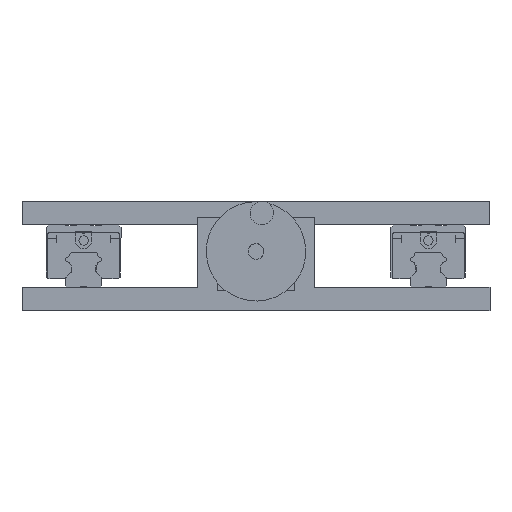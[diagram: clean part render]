
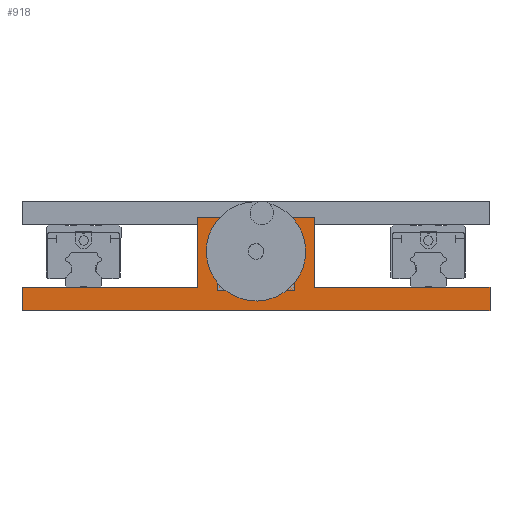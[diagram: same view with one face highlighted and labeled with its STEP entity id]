
A CAD part, front view. The second image highlights one B-rep face of the part: STEP entity #918.
In plain terms, the highlighted planar face has unit normal (0, -1, 0).
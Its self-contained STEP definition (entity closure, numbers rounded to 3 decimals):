
#236 = DIRECTION ( 'NONE',  ( 0., 0., -1. ) ) ;
#578 = CARTESIAN_POINT ( 'NONE',  ( 150., -866.5, 15. ) ) ;
#820 = FACE_OUTER_BOUND ( 'NONE', #61921, .T. ) ;
#918 = ADVANCED_FACE ( 'NONE', ( #73747, #820 ), #36526, .F. ) ;
#1260 = CARTESIAN_POINT ( 'NONE',  ( -150., -866.5, 0. ) ) ;
#1942 = DIRECTION ( 'NONE',  ( 0., 0., 1. ) ) ;
#2105 = DIRECTION ( 'NONE',  ( 0., 0., 1. ) ) ;
#3337 = EDGE_CURVE ( 'NONE', #21797, #23533, #60523, .T. ) ;
#3824 = ORIENTED_EDGE ( 'NONE', *, *, #19549, .F. ) ;
#4621 = EDGE_CURVE ( 'NONE', #69899, #23819, #46648, .T. ) ;
#6021 = CARTESIAN_POINT ( 'NONE',  ( 37.5, -866.5, 60. ) ) ;
#7428 = CARTESIAN_POINT ( 'NONE',  ( -150., -866.5, 15. ) ) ;
#9494 = EDGE_CURVE ( 'NONE', #52424, #62600, #56745, .T. ) ;
#9623 = AXIS2_PLACEMENT_3D ( 'NONE', #35466, #46844, #2105 ) ;
#10319 = DIRECTION ( 'NONE',  ( 0., 0., -1. ) ) ;
#11988 = DIRECTION ( 'NONE',  ( 1., 0., 0. ) ) ;
#12855 = DIRECTION ( 'NONE',  ( 0., 0., -1. ) ) ;
#12970 = CARTESIAN_POINT ( 'NONE',  ( -37.5, -866.5, 60. ) ) ;
#14558 = EDGE_CURVE ( 'NONE', #53306, #23819, #18516, .T. ) ;
#14803 = VERTEX_POINT ( 'NONE', #49020 ) ;
#15562 = VECTOR ( 'NONE', #12855, 1000. ) ;
#15791 = EDGE_CURVE ( 'NONE', #14803, #23055, #72379, .T. ) ;
#15847 = ORIENTED_EDGE ( 'NONE', *, *, #55412, .T. ) ;
#17427 = EDGE_CURVE ( 'NONE', #23055, #14803, #54523, .T. ) ;
#17681 = EDGE_CURVE ( 'NONE', #48257, #62600, #45474, .T. ) ;
#17800 = CARTESIAN_POINT ( 'NONE',  ( -150., -866.5, 15. ) ) ;
#18236 = DIRECTION ( 'NONE',  ( 0., 0., -1. ) ) ;
#18516 = LINE ( 'NONE', #17800, #71870 ) ;
#19549 = EDGE_CURVE ( 'NONE', #69899, #21797, #45056, .T. ) ;
#19844 = DIRECTION ( 'NONE',  ( 0., 1., 0. ) ) ;
#19882 = ORIENTED_EDGE ( 'NONE', *, *, #17681, .F. ) ;
#20168 = VECTOR ( 'NONE', #50245, 1000. ) ;
#21797 = VERTEX_POINT ( 'NONE', #6021 ) ;
#22368 = CARTESIAN_POINT ( 'NONE',  ( 150., -866.5, 15. ) ) ;
#23055 = VERTEX_POINT ( 'NONE', #53989 ) ;
#23131 = ORIENTED_EDGE ( 'NONE', *, *, #4621, .T. ) ;
#23533 = VERTEX_POINT ( 'NONE', #37933 ) ;
#23819 = VERTEX_POINT ( 'NONE', #35675 ) ;
#26093 = EDGE_LOOP ( 'NONE', ( #54583, #44736 ) ) ;
#26907 = AXIS2_PLACEMENT_3D ( 'NONE', #29795, #46438, #1942 ) ;
#28704 = CARTESIAN_POINT ( 'NONE',  ( -150., -866.5, 15. ) ) ;
#29795 = CARTESIAN_POINT ( 'NONE',  ( 0., -866.5, 38. ) ) ;
#30801 = ORIENTED_EDGE ( 'NONE', *, *, #62188, .F. ) ;
#35466 = CARTESIAN_POINT ( 'NONE',  ( 0., -866.5, 38. ) ) ;
#35675 = CARTESIAN_POINT ( 'NONE',  ( -37.5, -866.5, 15. ) ) ;
#36526 = PLANE ( 'NONE',  #65078 ) ;
#37933 = CARTESIAN_POINT ( 'NONE',  ( 37.5, -866.5, 15. ) ) ;
#38391 = CARTESIAN_POINT ( 'NONE',  ( -150., -866.5, 0. ) ) ;
#41068 = DIRECTION ( 'NONE',  ( 1., 0., 0. ) ) ;
#42216 = VECTOR ( 'NONE', #11988, 1000. ) ;
#43530 = CARTESIAN_POINT ( 'NONE',  ( -37.5, -866.5, 60. ) ) ;
#44017 = CARTESIAN_POINT ( 'NONE',  ( 150., -866.5, 0. ) ) ;
#44736 = ORIENTED_EDGE ( 'NONE', *, *, #17427, .F. ) ;
#45056 = LINE ( 'NONE', #56754, #20168 ) ;
#45474 = LINE ( 'NONE', #22368, #54454 ) ;
#45788 = LINE ( 'NONE', #46096, #42216 ) ;
#46096 = CARTESIAN_POINT ( 'NONE',  ( -150., -866.5, 15. ) ) ;
#46438 = DIRECTION ( 'NONE',  ( 0., -1., 0. ) ) ;
#46648 = LINE ( 'NONE', #12970, #52954 ) ;
#46844 = DIRECTION ( 'NONE',  ( 0., -1., 0. ) ) ;
#47698 = ORIENTED_EDGE ( 'NONE', *, *, #9494, .T. ) ;
#48257 = VERTEX_POINT ( 'NONE', #578 ) ;
#49020 = CARTESIAN_POINT ( 'NONE',  ( 0., -866.5, 43. ) ) ;
#50245 = DIRECTION ( 'NONE',  ( 1., 0., 0. ) ) ;
#51253 = LINE ( 'NONE', #7428, #15562 ) ;
#52424 = VERTEX_POINT ( 'NONE', #38391 ) ;
#52954 = VECTOR ( 'NONE', #18236, 1000. ) ;
#53306 = VERTEX_POINT ( 'NONE', #28704 ) ;
#53728 = CARTESIAN_POINT ( 'NONE',  ( -150., -866.5, 15. ) ) ;
#53989 = CARTESIAN_POINT ( 'NONE',  ( 0., -866.5, 33. ) ) ;
#54454 = VECTOR ( 'NONE', #236, 1000. ) ;
#54523 = CIRCLE ( 'NONE', #9623, 5. ) ;
#54583 = ORIENTED_EDGE ( 'NONE', *, *, #15791, .F. ) ;
#55412 = EDGE_CURVE ( 'NONE', #53306, #52424, #51253, .T. ) ;
#56745 = LINE ( 'NONE', #1260, #68318 ) ;
#56754 = CARTESIAN_POINT ( 'NONE',  ( -37.5, -866.5, 60. ) ) ;
#56884 = ORIENTED_EDGE ( 'NONE', *, *, #14558, .F. ) ;
#57935 = VECTOR ( 'NONE', #10319, 1000. ) ;
#58705 = ORIENTED_EDGE ( 'NONE', *, *, #3337, .F. ) ;
#59672 = DIRECTION ( 'NONE',  ( 0., 0., 1. ) ) ;
#60523 = LINE ( 'NONE', #61102, #57935 ) ;
#61102 = CARTESIAN_POINT ( 'NONE',  ( 37.5, -866.5, 60. ) ) ;
#61921 = EDGE_LOOP ( 'NONE', ( #47698, #19882, #30801, #58705, #3824, #23131, #56884, #15847 ) ) ;
#62188 = EDGE_CURVE ( 'NONE', #23533, #48257, #45788, .T. ) ;
#62600 = VERTEX_POINT ( 'NONE', #44017 ) ;
#65078 = AXIS2_PLACEMENT_3D ( 'NONE', #53728, #19844, #59672 ) ;
#68318 = VECTOR ( 'NONE', #41068, 1000. ) ;
#69899 = VERTEX_POINT ( 'NONE', #43530 ) ;
#71870 = VECTOR ( 'NONE', #73775, 1000. ) ;
#72379 = CIRCLE ( 'NONE', #26907, 5. ) ;
#73747 = FACE_BOUND ( 'NONE', #26093, .T. ) ;
#73775 = DIRECTION ( 'NONE',  ( 1., 0., 0. ) ) ;
